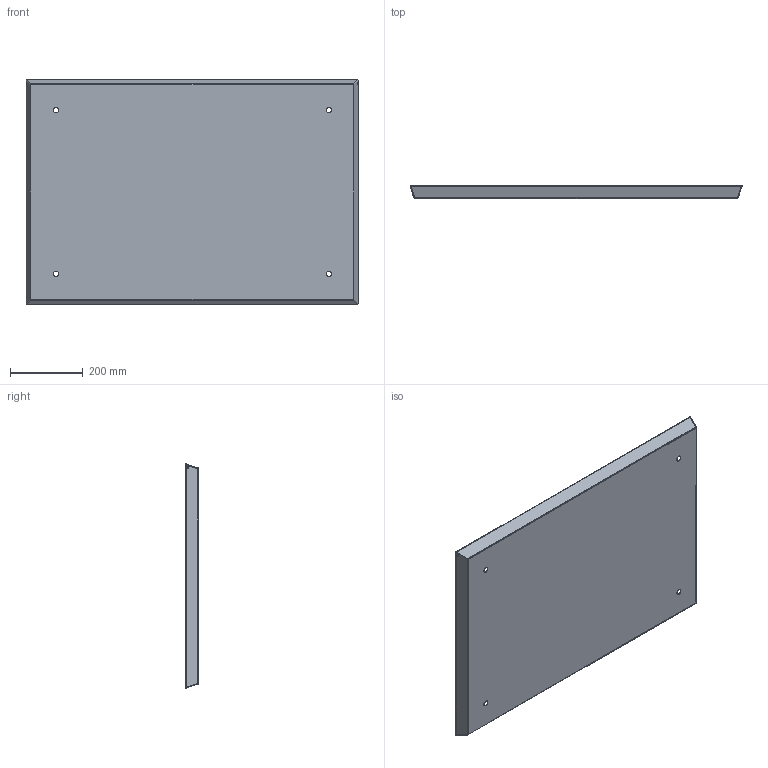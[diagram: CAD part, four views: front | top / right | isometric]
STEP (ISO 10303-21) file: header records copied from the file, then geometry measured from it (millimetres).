
FILE_DESCRIPTION (( 'STEP AP203' ), '1' );
FILE_NAME ('EUTT080050.STEP', '2020-07-08T11:51:33', ( '' ), ( '' ), 'SwSTEP 2.0', 'SolidWorks 2019', '' );
FILE_SCHEMA (( 'CONFIG_CONTROL_DESIGN' ));
Length unit declared in the file: millimetre
Products named in the file (1): EUTT080050
Bounding box: 911.59 x 37 x 615.59 mm (x, y, z)
Volume: 995124.8 mm3; surface area: 1335057.1 mm2
Topology: 1 solids, 1 shells, 55 faces, 132 edges, 72 vertices
Faces by surface type: cylinder 30, plane 16, bspline 8, sphere 1
Entity records: 1867 total; most frequent: CARTESIAN_POINT 627, ORIENTED_EDGE 246, DIRECTION 230, EDGE_CURVE 123, AXIS2_PLACEMENT_3D 83, VERTEX_POINT 72, EDGE_LOOP 69, LINE 64
